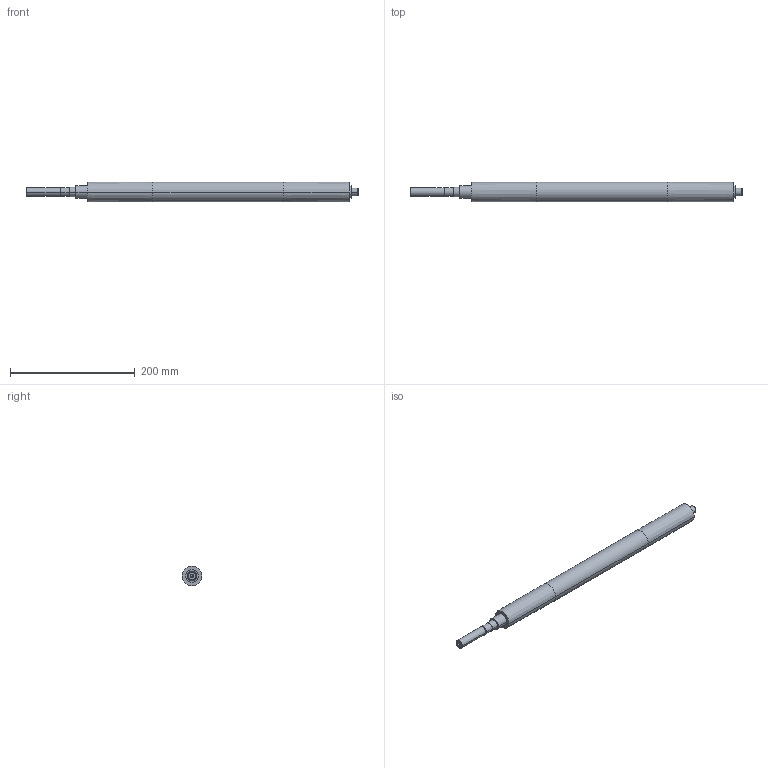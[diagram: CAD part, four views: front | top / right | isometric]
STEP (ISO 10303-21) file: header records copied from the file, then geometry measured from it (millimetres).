
FILE_DESCRIPTION (( 'STEP AP203' ), '1' );
FILE_NAME ('084.801.059.STEP', '2017-01-25T14:06:23', ( 'Localadmin' ), ( 'Microsoft' ), 'SwSTEP 2.0', 'SolidWorks 2016', '' );
FILE_SCHEMA (( 'CONFIG_CONTROL_DESIGN' ));
Length unit declared in the file: millimetre
Products named in the file (1): 084.801.059
Bounding box: 532.5 x 32 x 32 mm (x, y, z)
Volume: 352114.6 mm3; surface area: 49229.3 mm2
Topology: 1 solids, 1 shells, 42 faces, 89 edges, 55 vertices
Faces by surface type: cylinder 20, plane 12, cone 10
Entity records: 1258 total; most frequent: CARTESIAN_POINT 249, DIRECTION 215, ORIENTED_EDGE 174, AXIS2_PLACEMENT_3D 89, EDGE_CURVE 87, VERTEX_POINT 55, EDGE_LOOP 50, CIRCLE 46
